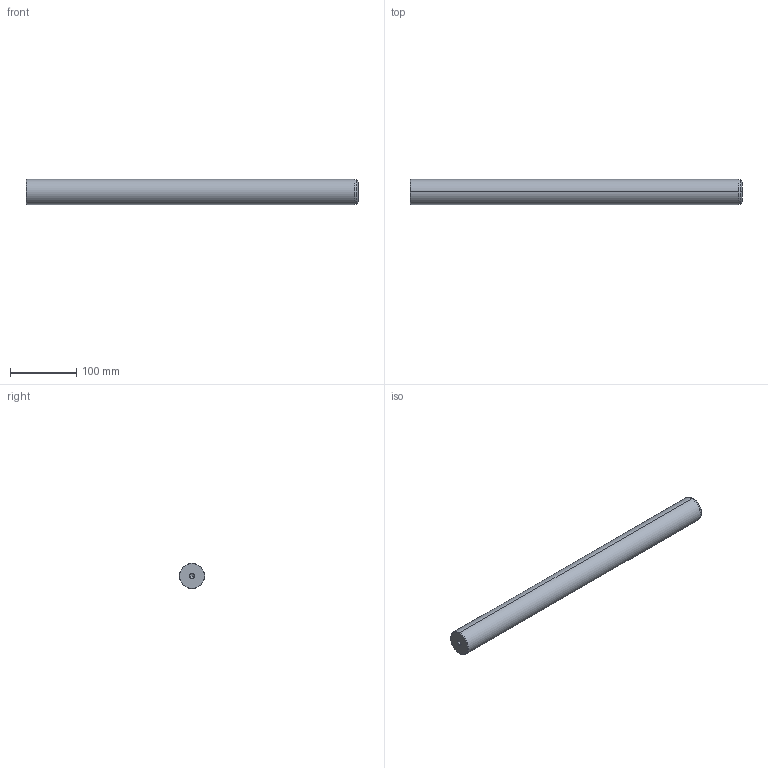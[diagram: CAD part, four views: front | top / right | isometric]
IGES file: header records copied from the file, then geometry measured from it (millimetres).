
Start section: START RECORD GO HERE.
Global section: file name: 720-38x500.igs; native system: DASSAULT SYSTEMES CATIA V5 R20 - www.3ds.com; preprocessor: CATIA Version 5 Release 20 ; author: Utente; organization: NB04-ASUS; date: 20210101.125837; units: millimetre
Bounding box: 500 x 38 x 38 mm (x, y, z)
Surface area: 62645 mm2 (no closed solid volume)
Topology: 0 solids, 0 shells, 22 faces, 120 edges, 116 vertices
Faces by surface type: revolution 20, plane 2
